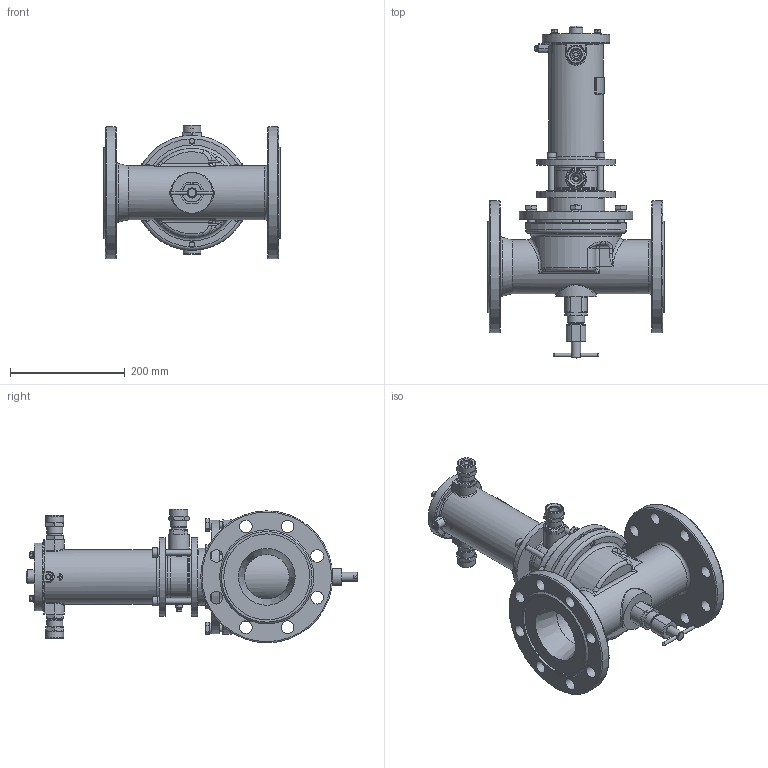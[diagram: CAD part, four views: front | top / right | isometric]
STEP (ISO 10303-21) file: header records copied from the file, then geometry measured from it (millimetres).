
FILE_DESCRIPTION(('STEP AP203'), '1');
FILE_NAME('ÑÅÍÑ DN100PN25-Â-ÄÏ1-ÑÂ.stp', '2018-09-19T08:49:31', ('Îðëîâ Å.Â.'), ('ÎÎÎ ÍÏÏ Ñåíñîð'), 'ASCON STEP Converter 1.3', 'Kompas 3D', '');
FILE_SCHEMA(('CONFIG_CONTROL_DESIGN','SUPPORT_RESOURCE_SCHEMA'));
Length unit declared in the file: millimetre
Products named in the file (1): 66
Bounding box: 308 x 578.66 x 233 mm (x, y, z)
Volume: 3974734.4 mm3; surface area: 900879 mm2
Topology: 3 solids, 25 shells, 2312 faces, 6028 edges, 3889 vertices
Faces by surface type: cylinder 1113, plane 884, cone 183, bspline 56, torus 52, extrusion 16, sphere 8
Full cylindrical faces by diameter (mm): 2.459 x1, 3.5 x2, 4.134 x6, 4.917 x4, 5 x2, 5.3 x1, 6 x9, 6.5 x4, 8 x10, 8.2 x1, 8.376 x4, 8.5 x1, 10 x6, 10.106 x6, 11 x5, 12 x12, 13 x10, 16 x6, 16.004 x2, 17 x2, 17.5 x1, 18 x1, 18.632 x2, 20 x4, 22 x18, 22.376 x2, 23 x2, 23.5 x3, 24 x4, 24.5 x2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
Entity records: 91617 total; most frequent: CARTESIAN_POINT 33824, DIRECTION 12436, ORIENTED_EDGE 11992, EDGE_CURVE 5996, AXIS2_PLACEMENT_3D 4820, VERTEX_POINT 3889, VECTOR 2796, LINE 2780
